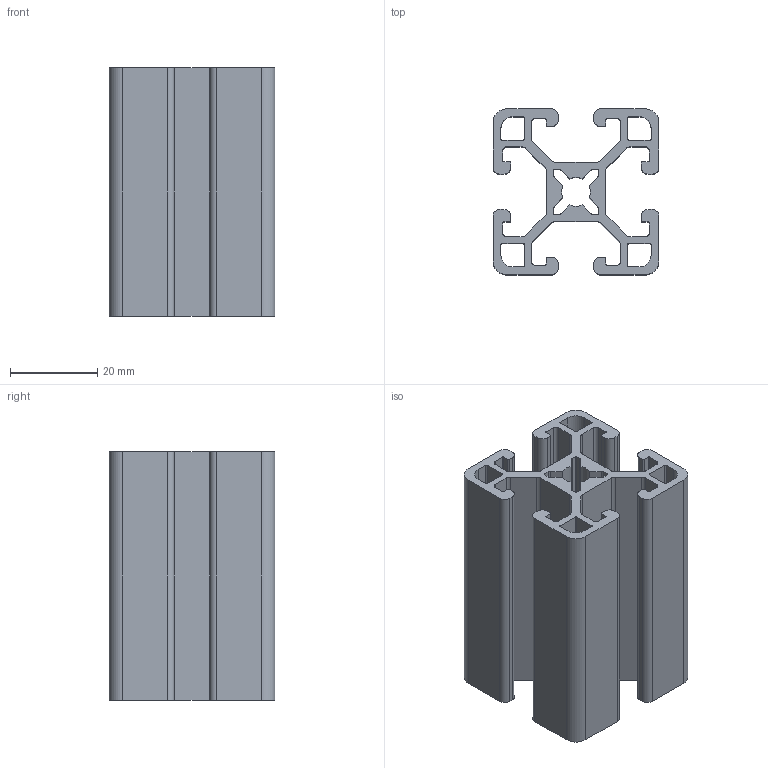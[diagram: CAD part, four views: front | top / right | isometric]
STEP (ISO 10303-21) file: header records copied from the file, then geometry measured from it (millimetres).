
FILE_DESCRIPTION(/* description */ ('STEP AP214'),/* implementation_level */ '2;1');
FILE_NAME(/* name */ '1515-ULS-2.25-CL',/* time_stamp */ '2023-08-13T18:32:01+02:00',/* author */ ('License CC BY-ND 4.0'),/* organization */ ('CADENAS'),/* preprocessor_version */ 'ST-DEVELOPER v19.3',/* originating_system */ 'PARTsolutions',/* authorisation */ ' ');
FILE_SCHEMA (('AUTOMOTIVE_DESIGN {1 0 10303 214 3 1 1}'));
Length unit declared in the file: inch
Products named in the file (1): 1515-ULS-2.25-CL
Bounding box: 38.1 x 38.1 x 57.15 mm (x, y, z)
Volume: 28773.9 mm3; surface area: 27440.4 mm2
Topology: 1 solids, 1 shells, 186 faces, 552 edges, 368 vertices
Faces by surface type: plane 94, cylinder 92
Entity records: 6332 total; most frequent: DIRECTION 1110, CARTESIAN_POINT 1107, ORIENTED_EDGE 1104, EDGE_CURVE 552, AXIS2_PLACEMENT_3D 371, LINE 368, VECTOR 368, VERTEX_POINT 368
